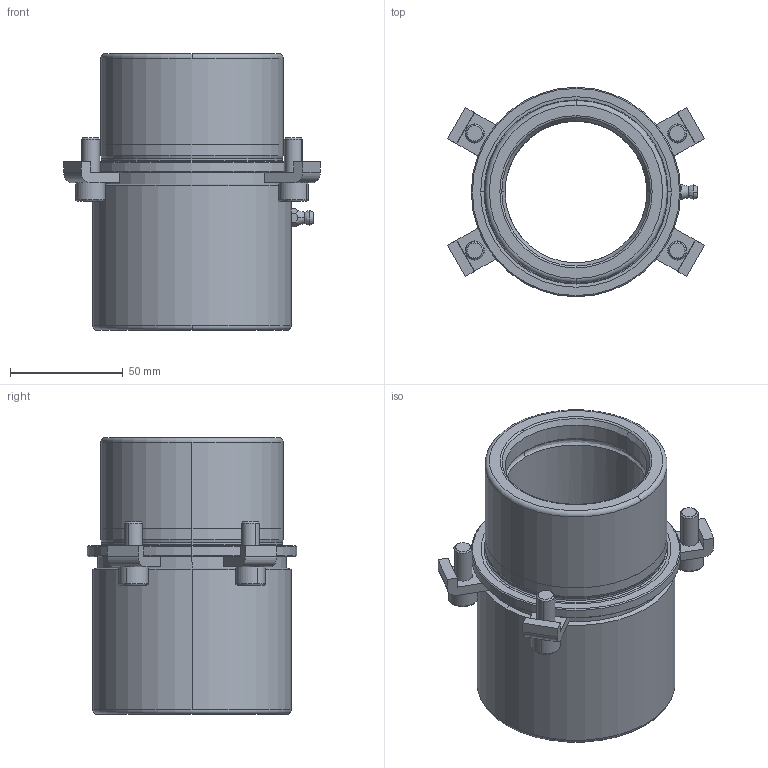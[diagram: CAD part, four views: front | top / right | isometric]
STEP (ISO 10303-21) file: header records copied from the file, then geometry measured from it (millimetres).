
FILE_DESCRIPTION((''),'2;1');
FILE_NAME('B10_063_075.stp','2008-11-06T09:16:26',(''),(''),'Mechanical Desktop 2009','Mechanical Desktop 2009',', , ');
FILE_SCHEMA(('CONFIG_CONTROL_DESIGN'));
Length unit declared in the file: millimetre
Products named in the file (2): Product; blmdl1
Assembly tree (1 placements, depth 2):
  Product
    blmdl1
Bounding box: 114.12 x 93 x 123 mm (x, y, z)
Volume: 330900.4 mm3; surface area: 74497.9 mm2
Topology: 10 solids, 10 shells, 202 faces, 505 edges, 332 vertices
Faces by surface type: plane 82, cylinder 60, cone 24, bspline 18, torus 18
Entity records: 7382 total; most frequent: CARTESIAN_POINT 2304, DIRECTION 1111, ORIENTED_EDGE 1002, EDGE_CURVE 501, AXIS2_PLACEMENT_3D 441, VERTEX_POINT 330, CIRCLE 255, VECTOR 229
